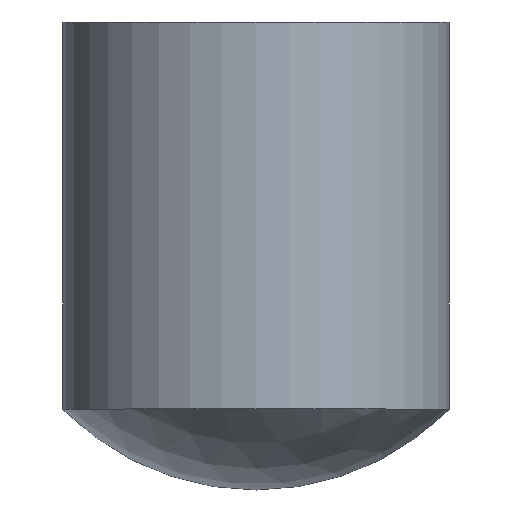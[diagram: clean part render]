
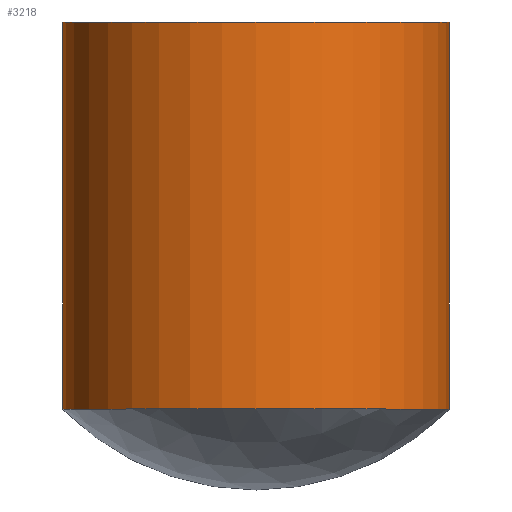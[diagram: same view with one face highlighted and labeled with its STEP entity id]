
A CAD part, top view. The second image highlights one B-rep face of the part: STEP entity #3218.
In plain terms, the highlighted cylindrical face has radius 800 mm (diameter 1600 mm), a partial arc.
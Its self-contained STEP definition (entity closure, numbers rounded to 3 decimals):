
#26 = VECTOR ( 'NONE', #3445, 1000. ) ;
#36 = ORIENTED_EDGE ( 'NONE', *, *, #3490, .F. ) ;
#131 = ORIENTED_EDGE ( 'NONE', *, *, #3655, .F. ) ;
#257 = CARTESIAN_POINT ( 'NONE',  ( 0., -0.707, 0. ) ) ;
#289 = AXIS2_PLACEMENT_3D ( 'NONE', #1793, #2929, #361 ) ;
#315 = LINE ( 'NONE', #581, #26 ) ;
#361 = DIRECTION ( 'NONE',  ( 1., 0., 0. ) ) ;
#443 = CARTESIAN_POINT ( 'NONE',  ( -800., -0.707, 0. ) ) ;
#581 = CARTESIAN_POINT ( 'NONE',  ( -800., 0., 0. ) ) ;
#597 = VERTEX_POINT ( 'NONE', #1698 ) ;
#645 = CYLINDRICAL_SURFACE ( 'NONE', #289, 800. ) ;
#677 = VECTOR ( 'NONE', #1076, 1000. ) ;
#823 = CARTESIAN_POINT ( 'NONE',  ( 800., -0.707, 0. ) ) ;
#839 = CARTESIAN_POINT ( 'NONE',  ( 0., 1600., 0. ) ) ;
#932 = ORIENTED_EDGE ( 'NONE', *, *, #1041, .T. ) ;
#1041 = EDGE_CURVE ( 'NONE', #2909, #1172, #315, .T. ) ;
#1076 = DIRECTION ( 'NONE',  ( 0., -1., 0. ) ) ;
#1172 = VERTEX_POINT ( 'NONE', #443 ) ;
#1290 = ORIENTED_EDGE ( 'NONE', *, *, #3524, .T. ) ;
#1430 = DIRECTION ( 'NONE',  ( 0., -1., 0. ) ) ;
#1698 = CARTESIAN_POINT ( 'NONE',  ( 800., 1600., 0. ) ) ;
#1705 = DIRECTION ( 'NONE',  ( 1., 0., 0. ) ) ;
#1793 = CARTESIAN_POINT ( 'NONE',  ( 0., 0., 0. ) ) ;
#2082 = EDGE_LOOP ( 'NONE', ( #1290, #932, #36, #131 ) ) ;
#2357 = CIRCLE ( 'NONE', #3430, 800. ) ;
#2502 = LINE ( 'NONE', #3646, #677 ) ;
#2909 = VERTEX_POINT ( 'NONE', #3607 ) ;
#2929 = DIRECTION ( 'NONE',  ( 0., -1., 0. ) ) ;
#2949 = CIRCLE ( 'NONE', #3552, 800. ) ;
#3067 = DIRECTION ( 'NONE',  ( 1., 0., 0. ) ) ;
#3107 = DIRECTION ( 'NONE',  ( 0., -1., 0. ) ) ;
#3218 = ADVANCED_FACE ( 'NONE', ( #3491 ), #645, .T. ) ;
#3430 = AXIS2_PLACEMENT_3D ( 'NONE', #839, #1430, #3067 ) ;
#3445 = DIRECTION ( 'NONE',  ( 0., -1., 0. ) ) ;
#3490 = EDGE_CURVE ( 'NONE', #3511, #1172, #2949, .T. ) ;
#3491 = FACE_OUTER_BOUND ( 'NONE', #2082, .T. ) ;
#3511 = VERTEX_POINT ( 'NONE', #823 ) ;
#3524 = EDGE_CURVE ( 'NONE', #597, #2909, #2357, .T. ) ;
#3552 = AXIS2_PLACEMENT_3D ( 'NONE', #257, #3107, #1705 ) ;
#3607 = CARTESIAN_POINT ( 'NONE',  ( -800., 1600., 0. ) ) ;
#3646 = CARTESIAN_POINT ( 'NONE',  ( 800., 0., 0. ) ) ;
#3655 = EDGE_CURVE ( 'NONE', #597, #3511, #2502, .T. ) ;
